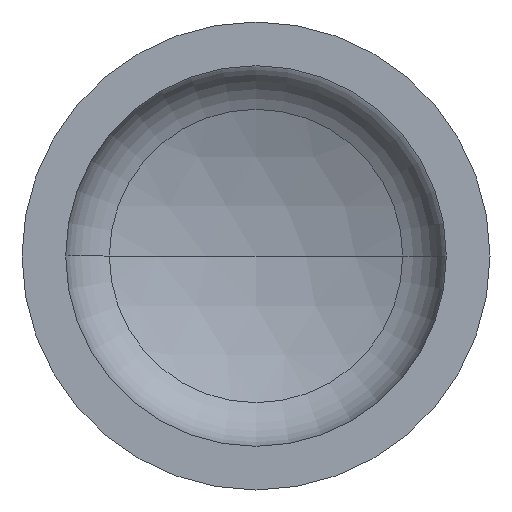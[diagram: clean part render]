
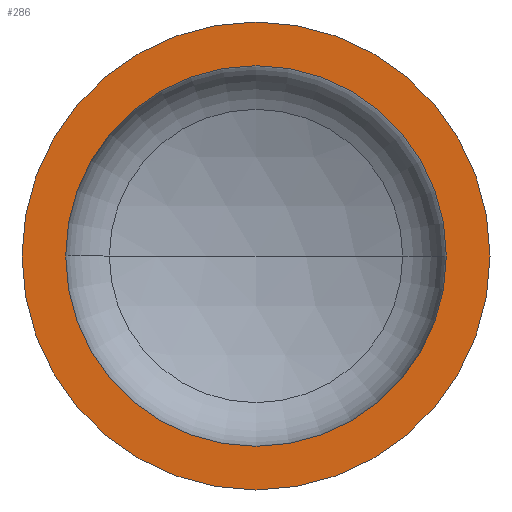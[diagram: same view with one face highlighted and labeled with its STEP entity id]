
A CAD part, front view. The second image highlights one B-rep face of the part: STEP entity #286.
In plain terms, the highlighted planar face has unit normal (0, -1, 0).
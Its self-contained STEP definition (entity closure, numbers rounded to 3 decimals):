
#10 = VERTEX_POINT ( 'NONE', #261 ) ;
#14 = AXIS2_PLACEMENT_3D ( 'NONE', #163, #182, #377 ) ;
#15 = EDGE_LOOP ( 'NONE', ( #95, #154 ) ) ;
#16 = AXIS2_PLACEMENT_3D ( 'NONE', #391, #47, #407 ) ;
#22 = PLANE ( 'NONE',  #14 ) ;
#24 = FACE_BOUND ( 'NONE', #97, .T. ) ;
#25 = ORIENTED_EDGE ( 'NONE', *, *, #333, .F. ) ;
#37 = CARTESIAN_POINT ( 'NONE',  ( 0., 0., 0. ) ) ;
#47 = DIRECTION ( 'NONE',  ( 0., -1., 0. ) ) ;
#48 = AXIS2_PLACEMENT_3D ( 'NONE', #190, #206, #212 ) ;
#49 = FACE_OUTER_BOUND ( 'NONE', #15, .T. ) ;
#53 = AXIS2_PLACEMENT_3D ( 'NONE', #316, #314, #313 ) ;
#68 = EDGE_CURVE ( 'NONE', #160, #146, #397, .T. ) ;
#69 = EDGE_CURVE ( 'NONE', #10, #178, #291, .T. ) ;
#95 = ORIENTED_EDGE ( 'NONE', *, *, #367, .T. ) ;
#97 = EDGE_LOOP ( 'NONE', ( #175, #25 ) ) ;
#99 = DIRECTION ( 'NONE',  ( 1., 0., 0. ) ) ;
#134 = CIRCLE ( 'NONE', #279, 300. ) ;
#146 = VERTEX_POINT ( 'NONE', #288 ) ;
#154 = ORIENTED_EDGE ( 'NONE', *, *, #68, .T. ) ;
#160 = VERTEX_POINT ( 'NONE', #369 ) ;
#163 = CARTESIAN_POINT ( 'NONE',  ( -300., 0., 0. ) ) ;
#175 = ORIENTED_EDGE ( 'NONE', *, *, #69, .F. ) ;
#178 = VERTEX_POINT ( 'NONE', #205 ) ;
#182 = DIRECTION ( 'NONE',  ( 0., 1., 0. ) ) ;
#190 = CARTESIAN_POINT ( 'NONE',  ( 0., 0., 0. ) ) ;
#205 = CARTESIAN_POINT ( 'NONE',  ( -244., 0., 0. ) ) ;
#206 = DIRECTION ( 'NONE',  ( 0., -1., 0. ) ) ;
#212 = DIRECTION ( 'NONE',  ( 1., 0., 0. ) ) ;
#261 = CARTESIAN_POINT ( 'NONE',  ( 244., 0., 0. ) ) ;
#279 = AXIS2_PLACEMENT_3D ( 'NONE', #37, #340, #99 ) ;
#286 = ADVANCED_FACE ( 'NONE', ( #24, #49 ), #22, .F. ) ;
#288 = CARTESIAN_POINT ( 'NONE',  ( 300., 0., 0. ) ) ;
#291 = CIRCLE ( 'NONE', #48, 244. ) ;
#313 = DIRECTION ( 'NONE',  ( 1., 0., 0. ) ) ;
#314 = DIRECTION ( 'NONE',  ( 0., -1., 0. ) ) ;
#316 = CARTESIAN_POINT ( 'NONE',  ( 0., 0., 0. ) ) ;
#333 = EDGE_CURVE ( 'NONE', #178, #10, #360, .T. ) ;
#340 = DIRECTION ( 'NONE',  ( 0., -1., 0. ) ) ;
#360 = CIRCLE ( 'NONE', #16, 244. ) ;
#367 = EDGE_CURVE ( 'NONE', #146, #160, #134, .T. ) ;
#369 = CARTESIAN_POINT ( 'NONE',  ( -300., 0., 0. ) ) ;
#377 = DIRECTION ( 'NONE',  ( -1., 0., 0. ) ) ;
#391 = CARTESIAN_POINT ( 'NONE',  ( 0., 0., 0. ) ) ;
#397 = CIRCLE ( 'NONE', #53, 300. ) ;
#407 = DIRECTION ( 'NONE',  ( 1., 0., 0. ) ) ;
